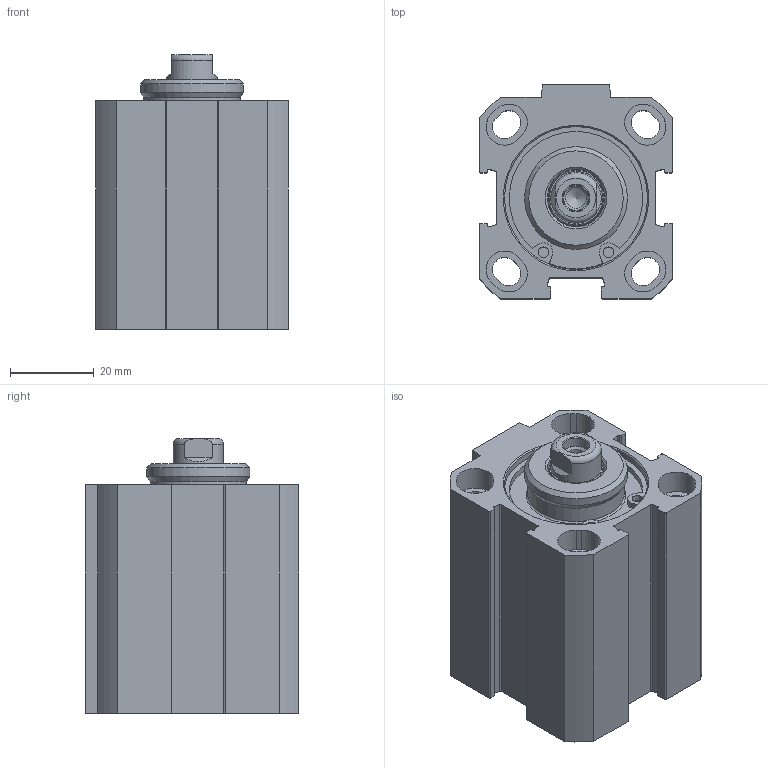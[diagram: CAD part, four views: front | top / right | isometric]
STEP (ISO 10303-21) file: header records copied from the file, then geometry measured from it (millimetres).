
FILE_DESCRIPTION(/* description */ ('Unknown'),/* implementation_level */ '2;1');
FILE_NAME(/* name */ 'FIN 32_15',/* time_stamp */ '2026-05-12T07:59:12+02:00',/* author */ ('Unknown'),/* organization */ ('Unknown'),/* preprocessor_version */ 'ST-DEVELOPER v18.102',/* originating_system */ 'Solid Edge',/* authorisation */ 'Unknown');
FILE_SCHEMA (('AUTOMOTIVE_DESIGN {1 0 10303 214 3 1 1}'));
Length unit declared in the file: millimetre
Products named in the file (5): FIN 32_15; Kolbenstange; Profilrohr; Kit_1; Kit_2
Assembly tree (4 placements, depth 2):
  FIN 32_15
    Kolbenstange
    Profilrohr
    Kit_1
    Kit_2
Bounding box: 46 x 51 x 65.5 mm (x, y, z)
Volume: 89143 mm3; surface area: 37491.8 mm2
Topology: 4 solids, 5 shells, 241 faces, 586 edges, 378 vertices
Faces by surface type: plane 107, cylinder 93, cone 31, torus 10
Full cylindrical faces by diameter (mm): 1.6 x2, 2.5 x4, 4.917 x2, 6.25 x1, 8.566 x4, 12 x2, 12.54 x1, 13.7 x1, 14 x1, 16.32 x1, 16.5 x1, 23 x2, 24.5 x1, 32 x2, 33.7 x4, 34.1 x2, 35.8 x2
Entity records: 8441 total; most frequent: CARTESIAN_POINT 1201, DIRECTION 1200, ORIENTED_EDGE 982, EDGE_CURVE 491, AXIS2_PLACEMENT_3D 469, VERTEX_POINT 358, FACE_BOUND 357, EDGE_LOOP 356
